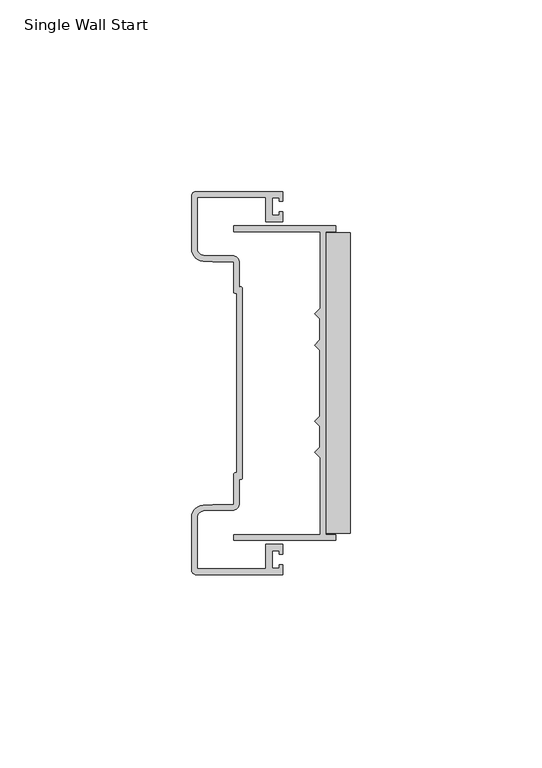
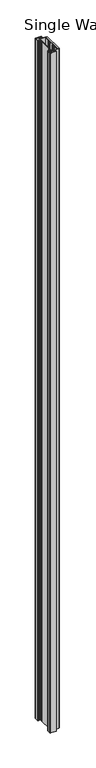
"""IFC4 building model written with IfcOpenShell, lengths in millimetres: proxy geometry, Connection-Teknion-FHCJW-Adjustable_Wal_Start-R2022 : Single Wall Start."""

from ifc_helpers import new_model, si_unit, frame, origin, origin_with_axes, place, context, project, spatial, polyline, circle_curve, outline, extrude, faceted_brep, source, transform, mapped, element, save
from ifc_brep_helpers import plane_surface, cylinder_surface, revolved_surface, advanced_brep


def single_wall_start_cac659fe(model_context):
    return source(origin(), model_context, "Body", "SolidModel", [
        faceted_brep([(13.6393292, 41.0591035, 2743.2), (-13.0348006, 41.0591035, 2743.2), (-13.0348006, 39.5350959, 2743.2), (9.5712006, 39.5350959, 2743.2), (9.5712006, 19.5261519, 2743.2), (8.1107021, 18.0656484, 2743.2), (9.4442006, 16.73215, 2743.2), (9.4442006, 11.2711507, 2743.2), (8.1106995, 9.9376497, 2743.2), (9.4442006, 8.6041487, 2743.2), (9.4442006, -8.6041487, 2743.2), (8.1106995, -9.9376497, 2743.2), (9.4442006, -11.2711507, 2743.2), (9.4442006, -16.73215, 2743.2), (8.1107021, -18.0656484, 2743.2), (9.5712006, -19.5261519, 2743.2), (9.5712006, -39.5350959, 2743.2), (-13.0348006, -39.5350959, 2743.2), (-13.0348006, -41.0591035, 2743.2), (13.6393292, -41.0591035, 2743.2), (13.6393292, -39.5350959, 2743.2), (11.0952006, -39.5350959, 2743.2), (11.0952006, 39.5350959, 2743.2), (13.6393292, 39.5350959, 2743.2), (13.6393292, 41.0591035, 0.0), (13.6393292, 39.5350959, 0.0), (11.0952006, 39.5350959, 0.0), (11.0952006, -39.5350959, 0.0), (13.6393292, -39.5350959, 0.0), (13.6393292, -41.0591035, 0.0), (-13.0348006, -41.0591035, 0.0), (-13.0348006, -39.5350959, 0.0), (9.5712006, -39.5350959, 0.0), (9.5712006, -19.5261519, 0.0), (8.1107021, -18.0656484, 0.0), (9.4442006, -16.73215, 0.0), (9.4442006, -11.2711507, 0.0), (8.1106995, -9.9376497, 0.0), (9.4442006, -8.6041487, 0.0), (9.4442006, 8.6041487, 0.0), (8.1106995, 9.9376497, 0.0), (9.4442006, 11.2711507, 0.0), (9.4442006, 16.73215, 0.0), (8.1107021, 18.0656484, 0.0), (9.5712006, 19.5261519, 0.0), (9.5712006, 39.5350959, 0.0), (-13.0348006, 39.5350959, 0.0), (-13.0348006, 41.0591035, 0.0)], [[[0, 1, 2, 3, 4, 5, 6, 7, 8, 9, 10, 11, 12, 13, 14, 15, 16, 17, 18, 19, 20, 21, 22, 23]], [[24, 25, 26, 27, 28, 29, 30, 31, 32, 33, 34, 35, 36, 37, 38, 39, 40, 41, 42, 43, 44, 45, 46, 47]], [[23, 22, 26, 25]], [[0, 23, 25, 24]], [[1, 0, 24, 47]], [[2, 1, 47, 46]], [[3, 2, 46, 45]], [[4, 3, 45, 44]], [[5, 4, 44, 43]], [[6, 5, 43, 42]], [[7, 6, 42, 41]], [[8, 7, 41, 40]], [[9, 8, 40, 39]], [[10, 9, 39, 38]], [[11, 10, 38, 37]], [[12, 11, 37, 36]], [[13, 12, 36, 35]], [[14, 13, 35, 34]], [[15, 14, 34, 33]], [[16, 15, 33, 32]], [[17, 16, 32, 31]], [[18, 17, 31, 30]], [[19, 18, 30, 29]], [[20, 19, 29, 28]], [[21, 20, 28, 27]], [[22, 21, 27, 26]]]),
        advanced_brep(
        [(-22.7330004, 50.00625, 2743.2), (-24.0029992, 48.7362512, 2743.2), (-24.0029992, 35.0169033, 2743.2), (-20.9941667, 31.8462484, 2743.2), (-18.5165995, 31.7181494, 2743.2), (-13.0047993, 31.7181494, 2743.2), (-13.0047993, 23.8822496, 2743.2), (-12.2428, 23.5012499, 2743.2), (-12.2428, -23.5012499, 2743.2), (-13.0047993, -23.8822496, 2743.2), (-13.0047993, -31.7181494, 2743.2), (-18.5165995, -31.7181494, 2743.2), (-20.9941667, -31.8462484, 2743.2), (-24.0029992, -35.0169033, 2743.2), (-24.0029992, -48.7362512, 2743.2), (-22.7330004, -50.00625, 2743.2), (-0.1904992, -50.00625, 2743.2), (-0.1904992, -47.4662524, 2743.2), (-1.1647474, -47.4662524, 2743.2), (-1.1647474, -48.3552516, 2743.2), (-2.9845, -48.3552516, 2743.2), (-2.9845, -43.7867199, 2743.2), (-1.1647474, -43.7867199, 2743.2), (-1.1647474, -44.675719, 2743.2), (-0.1904992, -44.675719, 2743.2), (-0.1904992, -42.1322484, 2743.2), (-4.6354995, -42.1322484, 2743.2), (-4.6354995, -48.4822515, 2743.2), (-22.4790007, -48.4822515, 2743.2), (-22.4790007, -35.0168937, 2743.2), (-20.9144069, -33.3681576, 2743.2), (-18.5099479, -33.2421479, 2743.2), (-13.3857989, -33.2421479, 2743.2), (-11.4807988, -31.3371478, 2743.2), (-11.4807985, -25.0252485, 2743.2), (-10.7187992, -24.6442488, 2743.2), (-10.7187992, 24.6442488, 2743.2), (-11.4807985, 25.0252485, 2743.2), (-11.4807985, 31.3371478, 2743.2), (-13.3857989, 33.2421479, 2743.2), (-18.5099479, 33.2421479, 2743.2), (-20.9144069, 33.3681576, 2743.2), (-22.4790007, 35.0168937, 2743.2), (-22.4790007, 48.4822515, 2743.2), (-4.6354995, 48.4822515, 2743.2), (-4.6354995, 42.1322484, 2743.2), (-0.1904992, 42.1322484, 2743.2), (-0.1904992, 44.675719, 2743.2), (-1.1647474, 44.675719, 2743.2), (-1.1647474, 43.7867199, 2743.2), (-2.9845, 43.7867199, 2743.2), (-2.9845, 48.3552516, 2743.2), (-1.1647474, 48.3552516, 2743.2), (-1.1647474, 47.4662524, 2743.2), (-0.1904992, 47.4662524, 2743.2), (-0.1904992, 50.00625, 2743.2), (-22.7330004, 50.00625, 0.0), (-0.1904992, 50.00625, 0.0), (-0.1904992, 47.4662524, 0.0), (-1.1647474, 47.4662524, 0.0), (-1.1647474, 48.3552516, 0.0), (-2.9845, 48.3552516, 0.0), (-2.9845, 43.7867199, 0.0), (-1.1647474, 43.7867199, 0.0), (-1.1647474, 44.675719, 0.0), (-0.1904992, 44.675719, 0.0), (-0.1904992, 42.1322484, 0.0), (-4.6354995, 42.1322484, 0.0), (-4.6354995, 48.4822515, 0.0), (-22.4790007, 48.4822515, 0.0), (-22.4790007, 35.0168937, 0.0), (-20.9144069, 33.3681576, 0.0), (-18.5099479, 33.2421479, 0.0), (-13.3857989, 33.2421479, 0.0), (-11.4807988, 31.3371478, 0.0), (-11.4807985, 25.0252485, 0.0), (-10.7187992, 24.6442488, 0.0), (-10.7187992, -24.6442488, 0.0), (-11.4807985, -25.0252485, 0.0), (-11.4807985, -31.3371478, 0.0), (-13.3857989, -33.2421479, 0.0), (-18.5099479, -33.2421479, 0.0), (-20.9144069, -33.3681576, 0.0), (-22.4790007, -35.0168937, 0.0), (-22.4790007, -48.4822515, 0.0), (-4.6354995, -48.4822515, 0.0), (-4.6354995, -42.1322484, 0.0), (-0.1904992, -42.1322484, 0.0), (-0.1904992, -44.675719, 0.0), (-1.1647474, -44.675719, 0.0), (-1.1647474, -43.7867199, 0.0), (-2.9845, -43.7867199, 0.0), (-2.9845, -48.3552516, 0.0), (-1.1647474, -48.3552516, 0.0), (-1.1647474, -47.4662524, 0.0), (-0.1904992, -47.4662524, 0.0), (-0.1904992, -50.00625, 0.0), (-22.7330004, -50.00625, 0.0), (-24.0029992, -48.7362512, 0.0), (-24.0029992, -35.0169033, 0.0), (-20.9941667, -31.8462484, 0.0), (-18.5165995, -31.7181494, 0.0), (-13.0047993, -31.7181494, 0.0), (-13.0047993, -23.8822496, 0.0), (-12.2428, -23.5012499, 0.0), (-12.2428, 23.5012499, 0.0), (-13.0047993, 23.8822496, 0.0), (-13.0047993, 31.7181494, 0.0), (-18.5165995, 31.7181494, 0.0), (-20.9941667, 31.8462484, 0.0), (-24.0029992, 35.0169033, 0.0), (-24.0029992, 48.7362512, 0.0)],
        [
            (0, 1, circle_curve(frame((-22.7330004, 48.7362512, 2743.2), z_axis=(0.0, 0.0, 1.0), x_axis=(0.0, -1.0, 0.0)), 1.2699988)),
            (1, 2),
            (2, 3, circle_curve(frame((-20.721501, 35.11796, 2743.2), z_axis=(0.0, 0.0, 1.0), x_axis=(0.0, -1.0, 0.0)), 3.283054)),
            (3, 4),
            (4, 5),
            (5, 6),
            (6, 7, circle_curve(frame((-12.5285497, 23.8822496, 2743.2), z_axis=(0.0, 0.0, 1.0), x_axis=(0.0, -1.0, 0.0)), 0.4762495)),
            (7, 8),
            (8, 9, circle_curve(frame((-12.5285497, -23.8822496, 2743.2), z_axis=(0.0, 0.0, 1.0), x_axis=(0.0, -1.0, 0.0)), 0.4762495)),
            (9, 10),
            (10, 11),
            (11, 12),
            (12, 13, circle_curve(frame((-20.721501, -35.11796, 2743.2), z_axis=(0.0, 0.0, 1.0), x_axis=(0.0, -1.0, 0.0)), 3.283054)),
            (13, 14),
            (14, 15, circle_curve(frame((-22.7330004, -48.7362512, 2743.2), z_axis=(0.0, 0.0, 1.0), x_axis=(0.0, -1.0, 0.0)), 1.2699988)),
            (15, 16),
            (16, 17),
            (17, 18),
            (18, 19),
            (19, 20),
            (20, 21),
            (21, 22),
            (22, 23),
            (23, 24),
            (24, 25),
            (25, 26),
            (26, 27),
            (27, 28),
            (28, 29),
            (29, 30, circle_curve(frame((-20.8280021, -35.0168937, 2743.2), z_axis=(0.0, 0.0, -1.0), x_axis=(0.0, -1.0, 0.0)), 1.6509986)),
            (30, 31),
            (31, 32),
            (32, 33, circle_curve(frame((-13.3857989, -31.3371478, 2743.2), z_axis=(0.0, 0.0, 1.0), x_axis=(0.0, -1.0, 0.0)), 1.9050001)),
            (33, 34),
            (34, 35, circle_curve(frame((-11.1950487, -24.6442488, 2743.2), z_axis=(0.0, 0.0, 1.0), x_axis=(0.0, -1.0, 0.0)), 0.4762495)),
            (35, 36),
            (36, 37, circle_curve(frame((-11.1950487, 24.6442488, 2743.2), z_axis=(0.0, 0.0, 1.0), x_axis=(0.0, -1.0, 0.0)), 0.4762495)),
            (37, 38),
            (38, 39, circle_curve(frame((-13.3857989, 31.3371478, 2743.2), z_axis=(0.0, 0.0, 1.0), x_axis=(0.0, -1.0, 0.0)), 1.9050001)),
            (39, 40),
            (40, 41),
            (41, 42, circle_curve(frame((-20.8280021, 35.0168937, 2743.2), z_axis=(0.0, 0.0, -1.0), x_axis=(0.0, -1.0, 0.0)), 1.6509986)),
            (42, 43),
            (43, 44),
            (44, 45),
            (45, 46),
            (46, 47),
            (47, 48),
            (48, 49),
            (49, 50),
            (50, 51),
            (51, 52),
            (52, 53),
            (53, 54),
            (54, 55),
            (55, 0),
            (56, 57),
            (57, 58),
            (58, 59),
            (59, 60),
            (60, 61),
            (61, 62),
            (62, 63),
            (63, 64),
            (64, 65),
            (65, 66),
            (66, 67),
            (67, 68),
            (68, 69),
            (69, 70),
            (70, 71, circle_curve(frame((-20.8280021, 35.0168937, 0.0), z_axis=(0.0, 0.0, 1.0), x_axis=(0.0, -1.0, 0.0)), 1.6509986)),
            (71, 72),
            (72, 73),
            (73, 74, circle_curve(frame((-13.3857989, 31.3371478, 0.0), z_axis=(0.0, 0.0, -1.0), x_axis=(0.0, -1.0, 0.0)), 1.9050001)),
            (74, 75),
            (75, 76, circle_curve(frame((-11.1950487, 24.6442488, 0.0), z_axis=(0.0, 0.0, -1.0), x_axis=(0.0, -1.0, 0.0)), 0.4762495)),
            (76, 77),
            (77, 78, circle_curve(frame((-11.1950487, -24.6442488, 0.0), z_axis=(0.0, 0.0, -1.0), x_axis=(0.0, -1.0, 0.0)), 0.4762495)),
            (78, 79),
            (79, 80, circle_curve(frame((-13.3857989, -31.3371478, 0.0), z_axis=(0.0, 0.0, -1.0), x_axis=(0.0, -1.0, 0.0)), 1.9050001)),
            (80, 81),
            (81, 82),
            (82, 83, circle_curve(frame((-20.8280021, -35.0168937, 0.0), z_axis=(0.0, 0.0, 1.0), x_axis=(0.0, -1.0, 0.0)), 1.6509986)),
            (83, 84),
            (84, 85),
            (85, 86),
            (86, 87),
            (87, 88),
            (88, 89),
            (89, 90),
            (90, 91),
            (91, 92),
            (92, 93),
            (93, 94),
            (94, 95),
            (95, 96),
            (96, 97),
            (97, 98, circle_curve(frame((-22.7330004, -48.7362512, 0.0), z_axis=(0.0, 0.0, -1.0), x_axis=(0.0, -1.0, 0.0)), 1.2699988)),
            (98, 99),
            (99, 100, circle_curve(frame((-20.721501, -35.11796, 0.0), z_axis=(0.0, 0.0, -1.0), x_axis=(0.0, -1.0, 0.0)), 3.283054)),
            (100, 101),
            (101, 102),
            (102, 103),
            (103, 104, circle_curve(frame((-12.5285497, -23.8822496, 0.0), z_axis=(0.0, 0.0, -1.0), x_axis=(0.0, -1.0, 0.0)), 0.4762495)),
            (104, 105),
            (105, 106, circle_curve(frame((-12.5285497, 23.8822496, 0.0), z_axis=(0.0, 0.0, -1.0), x_axis=(0.0, -1.0, 0.0)), 0.4762495)),
            (106, 107),
            (107, 108),
            (108, 109),
            (109, 110, circle_curve(frame((-20.721501, 35.11796, 0.0), z_axis=(0.0, 0.0, -1.0), x_axis=(0.0, -1.0, 0.0)), 3.283054)),
            (110, 111),
            (111, 56, circle_curve(frame((-22.7330004, 48.7362512, 0.0), z_axis=(0.0, 0.0, -1.0), x_axis=(0.0, -1.0, 0.0)), 1.2699988)),
            (1, 111),
            (110, 2),
            (55, 57),
            (56, 0),
            (109, 3),
            (108, 4),
            (107, 5),
            (106, 6),
            (105, 7),
            (104, 8),
            (103, 9),
            (102, 10),
            (101, 11),
            (100, 12),
            (99, 13),
            (98, 14),
            (97, 15),
            (96, 16),
            (95, 17),
            (94, 18),
            (93, 19),
            (92, 20),
            (91, 21),
            (90, 22),
            (89, 23),
            (88, 24),
            (87, 25),
            (86, 26),
            (85, 27),
            (84, 28),
            (83, 29),
            (82, 30),
            (81, 31),
            (80, 32),
            (79, 33),
            (78, 34),
            (77, 35),
            (76, 36),
            (75, 37),
            (74, 38),
            (73, 39),
            (72, 40),
            (71, 41),
            (70, 42),
            (69, 43),
            (68, 44),
            (67, 45),
            (66, 46),
            (65, 47),
            (64, 48),
            (63, 49),
            (62, 50),
            (61, 51),
            (60, 52),
            (59, 53),
            (58, 54),
        ],
        [
            plane_surface(frame((0.0, 0.0, 2743.2), z_axis=(0.0, 0.0, 1.0), x_axis=(0.0, -1.0, 0.0))),
            plane_surface(frame((0.0, 0.0, 0.0), z_axis=(0.0, 0.0, -1.0), x_axis=(0.0, -1.0, 0.0))),
            plane_surface(frame((-24.0029992, 48.7362512, 2743.2), z_axis=(-1.0, 0.0, 0.0), x_axis=(0.0, 0.0, -1.0))),
            plane_surface(frame((-0.1904992, 50.00625, 2743.2), z_axis=(0.0, 1.0, 0.0), x_axis=(0.0, 0.0, -1.0))),
            cylinder_surface(frame((-22.7330004, 48.7362512, 2743.2), z_axis=(0.0, 0.0, 1.0), x_axis=(0.0, -1.0, 0.0)), 1.2699988),
            cylinder_surface(frame((-20.721501, 35.11796, 2743.2), z_axis=(0.0, 0.0, 1.0), x_axis=(0.0, -1.0, 0.0)), 3.283054),
            plane_surface(frame((-20.9941667, 31.8462484, 2743.2), z_axis=(-0.05163457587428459, -0.9986660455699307, 0.0), x_axis=(0.0, 0.0, -1.0))),
            plane_surface(frame((-18.5165995, 31.7181494, 2743.2), z_axis=(0.0, -1.0, 0.0), x_axis=(0.0, 0.0, -1.0))),
            plane_surface(frame((-13.0047993, 31.7181494, 2743.2), z_axis=(-1.0, 0.0, 0.0), x_axis=(0.0, 0.0, -1.0))),
            cylinder_surface(frame((-12.5285497, 23.8822496, 2743.2), z_axis=(0.0, 0.0, 1.0), x_axis=(0.0, -1.0, 0.0)), 0.4762495),
            plane_surface(frame((-12.2428, 23.5012499, 2743.2), z_axis=(-1.0, 0.0, 0.0), x_axis=(0.0, 0.0, -1.0))),
            cylinder_surface(frame((-12.5285497, -23.8822496, 2743.2), z_axis=(0.0, 0.0, 1.0), x_axis=(0.0, -1.0, 0.0)), 0.4762495),
            plane_surface(frame((-13.0047993, -23.8822496, 2743.2), z_axis=(-1.0, 0.0, 0.0), x_axis=(0.0, 0.0, -1.0))),
            plane_surface(frame((-13.0047993, -31.7181494, 2743.2), z_axis=(0.0, 1.0, 0.0), x_axis=(0.0, 0.0, -1.0))),
            plane_surface(frame((-18.5165995, -31.7181494, 2743.2), z_axis=(-0.05163457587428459, 0.9986660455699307, 0.0), x_axis=(0.0, 0.0, -1.0))),
            cylinder_surface(frame((-20.721501, -35.11796, 2743.2), z_axis=(0.0, 0.0, 1.0), x_axis=(0.0, -1.0, 0.0)), 3.283054),
            plane_surface(frame((-24.0029992, -35.0169033, 2743.2), z_axis=(-1.0, 0.0, 0.0), x_axis=(0.0, 0.0, -1.0))),
            cylinder_surface(frame((-22.7330004, -48.7362512, 2743.2), z_axis=(0.0, 0.0, 1.0), x_axis=(0.0, -1.0, 0.0)), 1.2699988),
            plane_surface(frame((-22.7330004, -50.00625, 2743.2), z_axis=(0.0, -1.0, 0.0), x_axis=(0.0, 0.0, -1.0))),
            plane_surface(frame((-0.1904992, -50.00625, 2743.2), z_axis=(1.0, 0.0, 0.0), x_axis=(0.0, 0.0, -1.0))),
            plane_surface(frame((-0.1904992, -47.4662524, 2743.2), z_axis=(0.0, 1.0, 0.0), x_axis=(0.0, 0.0, -1.0))),
            plane_surface(frame((-1.1647474, -47.4662524, 2743.2), z_axis=(-1.0, 0.0, 0.0), x_axis=(0.0, 0.0, -1.0))),
            plane_surface(frame((-1.1647474, -48.3552516, 2743.2), z_axis=(0.0, 1.0, 0.0), x_axis=(0.0, 0.0, -1.0))),
            plane_surface(frame((-2.9845, -48.3552516, 2743.2), z_axis=(1.0, 0.0, 0.0), x_axis=(0.0, 0.0, -1.0))),
            plane_surface(frame((-2.9845, -43.7867199, 2743.2), z_axis=(0.0, -1.0, 0.0), x_axis=(0.0, 0.0, -1.0))),
            plane_surface(frame((-1.1647474, -43.7867199, 2743.2), z_axis=(-1.0, 0.0, 0.0), x_axis=(0.0, 0.0, -1.0))),
            plane_surface(frame((-1.1647474, -44.675719, 2743.2), z_axis=(0.0, -1.0, 0.0), x_axis=(0.0, 0.0, -1.0))),
            plane_surface(frame((-0.1904992, -44.675719, 2743.2), z_axis=(1.0, 0.0, 0.0), x_axis=(0.0, 0.0, -1.0))),
            plane_surface(frame((-0.1904992, -42.1322484, 2743.2), z_axis=(0.0, 1.0, 0.0), x_axis=(0.0, 0.0, -1.0))),
            plane_surface(frame((-4.6354995, -42.1322484, 2743.2), z_axis=(-1.0, 0.0, 0.0), x_axis=(0.0, 0.0, -1.0))),
            plane_surface(frame((-4.6354995, -48.4822515, 2743.2), z_axis=(0.0, 1.0, 0.0), x_axis=(0.0, 0.0, -1.0))),
            plane_surface(frame((-22.4790007, -48.4822515, 2743.2), z_axis=(1.0, 0.0, 0.0), x_axis=(0.0, 0.0, -1.0))),
            revolved_surface(polyline([(-20.8280021, -36.6678923, 0.0), (-20.8280021, -36.6678923, 2743.2)]), (-20.8280021, -35.0168937, 2743.2), (0.0, 0.0, -1.0)),
            plane_surface(frame((-20.9144069, -33.3681576, 2743.2), z_axis=(0.0523348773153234, -0.9986295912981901, 0.0), x_axis=(0.0, 0.0, -1.0))),
            plane_surface(frame((-18.5099479, -33.2421479, 2743.2), z_axis=(0.0, -1.0, 0.0), x_axis=(0.0, 0.0, -1.0))),
            cylinder_surface(frame((-13.3857989, -31.3371478, 2743.2), z_axis=(0.0, 0.0, 1.0), x_axis=(0.0, -1.0, 0.0)), 1.9050001),
            plane_surface(frame((-11.4807985, -31.3371478, 2743.2), z_axis=(1.0, 0.0, 0.0), x_axis=(0.0, 0.0, -1.0))),
            cylinder_surface(frame((-11.1950487, -24.6442488, 2743.2), z_axis=(0.0, 0.0, 1.0), x_axis=(0.0, -1.0, 0.0)), 0.4762495),
            plane_surface(frame((-10.7187992, -24.6442488, 2743.2), z_axis=(1.0, 0.0, 0.0), x_axis=(0.0, 0.0, -1.0))),
            cylinder_surface(frame((-11.1950487, 24.6442488, 2743.2), z_axis=(0.0, 0.0, 1.0), x_axis=(0.0, -1.0, 0.0)), 0.4762495),
            plane_surface(frame((-11.4807985, 25.0252485, 2743.2), z_axis=(1.0, 0.0, 0.0), x_axis=(0.0, 0.0, -1.0))),
            cylinder_surface(frame((-13.3857989, 31.3371478, 2743.2), z_axis=(0.0, 0.0, 1.0), x_axis=(0.0, -1.0, 0.0)), 1.9050001),
            plane_surface(frame((-13.3857989, 33.2421479, 2743.2), z_axis=(0.0, 1.0, 0.0), x_axis=(0.0, 0.0, -1.0))),
            plane_surface(frame((-18.5099479, 33.2421479, 2743.2), z_axis=(0.0523348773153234, 0.9986295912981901, 0.0), x_axis=(0.0, 0.0, -1.0))),
            revolved_surface(polyline([(-20.8280021, 33.365895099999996, 0.0), (-20.8280021, 33.365895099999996, 2743.2)]), (-20.8280021, 35.0168937, 2743.2), (0.0, 0.0, -1.0)),
            plane_surface(frame((-22.4790007, 35.0168937, 2743.2), z_axis=(1.0, 0.0, 0.0), x_axis=(0.0, 0.0, -1.0))),
            plane_surface(frame((-22.4790007, 48.4822515, 2743.2), z_axis=(0.0, -1.0, 0.0), x_axis=(0.0, 0.0, -1.0))),
            plane_surface(frame((-4.6354995, 48.4822515, 2743.2), z_axis=(-1.0, 0.0, 0.0), x_axis=(0.0, 0.0, -1.0))),
            plane_surface(frame((-4.6354995, 42.1322484, 2743.2), z_axis=(0.0, -1.0, 0.0), x_axis=(0.0, 0.0, -1.0))),
            plane_surface(frame((-0.1904992, 42.1322484, 2743.2), z_axis=(1.0, 0.0, 0.0), x_axis=(0.0, 0.0, -1.0))),
            plane_surface(frame((-0.1904992, 44.675719, 2743.2), z_axis=(0.0, 1.0, 0.0), x_axis=(0.0, 0.0, -1.0))),
            plane_surface(frame((-1.1647474, 44.675719, 2743.2), z_axis=(-1.0, 0.0, 0.0), x_axis=(0.0, 0.0, -1.0))),
            plane_surface(frame((-1.1647474, 43.7867199, 2743.2), z_axis=(0.0, 1.0, 0.0), x_axis=(0.0, 0.0, -1.0))),
            plane_surface(frame((-2.9845, 43.7867199, 2743.2), z_axis=(1.0, 0.0, 0.0), x_axis=(0.0, 0.0, -1.0))),
            plane_surface(frame((-2.9845, 48.3552516, 2743.2), z_axis=(0.0, -1.0, 0.0), x_axis=(0.0, 0.0, -1.0))),
            plane_surface(frame((-1.1647474, 48.3552516, 2743.2), z_axis=(-1.0, 0.0, 0.0), x_axis=(0.0, 0.0, -1.0))),
            plane_surface(frame((-1.1647474, 47.4662524, 2743.2), z_axis=(0.0, -1.0, 0.0), x_axis=(0.0, 0.0, -1.0))),
            plane_surface(frame((-0.1904992, 47.4662524, 2743.2), z_axis=(1.0, 0.0, 0.0), x_axis=(0.0, 0.0, -1.0))),
        ],
        [
            (0, [[1, 2, 3, 4, 5, 6, 7, 8, 9, 10, 11, 12, 13, 14, 15, 16, 17, 18, 19, 20, 21, 22, 23, 24, 25, 26, 27, 28, 29, 30, 31, 32, 33, 34, 35, 36, 37, 38, 39, 40, 41, 42, 43, 44, 45, 46, 47, 48, 49, 50, 51, 52, 53, 54, 55, 56]]),
            (1, [[57, 58, 59, 60, 61, 62, 63, 64, 65, 66, 67, 68, 69, 70, 71, 72, 73, 74, 75, 76, 77, 78, 79, 80, 81, 82, 83, 84, 85, 86, 87, 88, 89, 90, 91, 92, 93, 94, 95, 96, 97, 98, 99, 100, 101, 102, 103, 104, 105, 106, 107, 108, 109, 110, 111, 112]]),
            (2, [[-2, 113, -111, 114]]),
            (3, [[-56, 115, -57, 116]]),
            (4, [[-1, -116, -112, -113]]),
            (5, [[-3, -114, -110, 117]]),
            (6, [[-4, -117, -109, 118]]),
            (7, [[-5, -118, -108, 119]]),
            (8, [[-6, -119, -107, 120]]),
            (9, [[-7, -120, -106, 121]]),
            (10, [[-8, -121, -105, 122]]),
            (11, [[-9, -122, -104, 123]]),
            (12, [[-10, -123, -103, 124]]),
            (13, [[-11, -124, -102, 125]]),
            (14, [[-12, -125, -101, 126]]),
            (15, [[-13, -126, -100, 127]]),
            (16, [[-14, -127, -99, 128]]),
            (17, [[-15, -128, -98, 129]]),
            (18, [[-16, -129, -97, 130]]),
            (19, [[-17, -130, -96, 131]]),
            (20, [[-18, -131, -95, 132]]),
            (21, [[-19, -132, -94, 133]]),
            (22, [[-20, -133, -93, 134]]),
            (23, [[-21, -134, -92, 135]]),
            (24, [[-22, -135, -91, 136]]),
            (25, [[-23, -136, -90, 137]]),
            (26, [[-24, -137, -89, 138]]),
            (27, [[-25, -138, -88, 139]]),
            (28, [[-26, -139, -87, 140]]),
            (29, [[-27, -140, -86, 141]]),
            (30, [[-28, -141, -85, 142]]),
            (31, [[-29, -142, -84, 143]]),
            (32, [[-30, -143, -83, 144]]),
            (33, [[-31, -144, -82, 145]]),
            (34, [[-32, -145, -81, 146]]),
            (35, [[-33, -146, -80, 147]]),
            (36, [[-34, -147, -79, 148]]),
            (37, [[-35, -148, -78, 149]]),
            (38, [[-36, -149, -77, 150]]),
            (39, [[-37, -150, -76, 151]]),
            (40, [[-38, -151, -75, 152]]),
            (41, [[-39, -152, -74, 153]]),
            (42, [[-40, -153, -73, 154]]),
            (43, [[-41, -154, -72, 155]]),
            (44, [[-42, -155, -71, 156]]),
            (45, [[-43, -156, -70, 157]]),
            (46, [[-44, -157, -69, 158]]),
            (47, [[-45, -158, -68, 159]]),
            (48, [[-46, -159, -67, 160]]),
            (49, [[-47, -160, -66, 161]]),
            (50, [[-48, -161, -65, 162]]),
            (51, [[-49, -162, -64, 163]]),
            (52, [[-50, -163, -63, 164]]),
            (53, [[-51, -164, -62, 165]]),
            (54, [[-52, -165, -61, 166]]),
            (55, [[-53, -166, -60, 167]]),
            (56, [[-54, -167, -59, 168]]),
            (57, [[-55, -168, -58, -115]]),
        ],
    ),
        extrude(outline(polyline([(17.4452004, 39.1857531), (17.4452004, -39.1732505), (11.0952006, -39.1732505), (11.0952006, 39.1857531), (17.4452004, 39.1857531)])), origin_with_axes(), (0.0, 0.0, 1.0), 2743.2),
    ])


if __name__ == "__main__":
    model = new_model("IFC4")
    model_context = context("Model", 3, world=origin())
    ifc_project = project(units=[si_unit("LENGTHUNIT", "METRE", prefix="MILLI")], contexts=[model_context])
    site = spatial("IfcSite", under=ifc_project)
    building = spatial("IfcBuilding", under=site)
    placement = place(None, origin())
    single_wall_start_shape = single_wall_start_cac659fe(model_context)
    element("IfcBuildingElementProxy", 1, Name="Connection-Teknion-FHCJW-Adjustable_Wal_Start-R2022 : Single Wall Start", ObjectType="Connection-Teknion-FHCJW-Adjustable_Wal_Start-R2022 : Single Wall Start", at=placement, inside=building, context=model_context, shape_type="MappedRepresentation", body=[
        mapped(single_wall_start_shape, transform((0.0, 0.0, 0.0), x_axis=(1.0, 0.0, 0.0), y_axis=(0.0, 1.0, 0.0), z_axis=(0.0, 0.0, 1.0))),
    ])
    save(model, "model.ifc")
